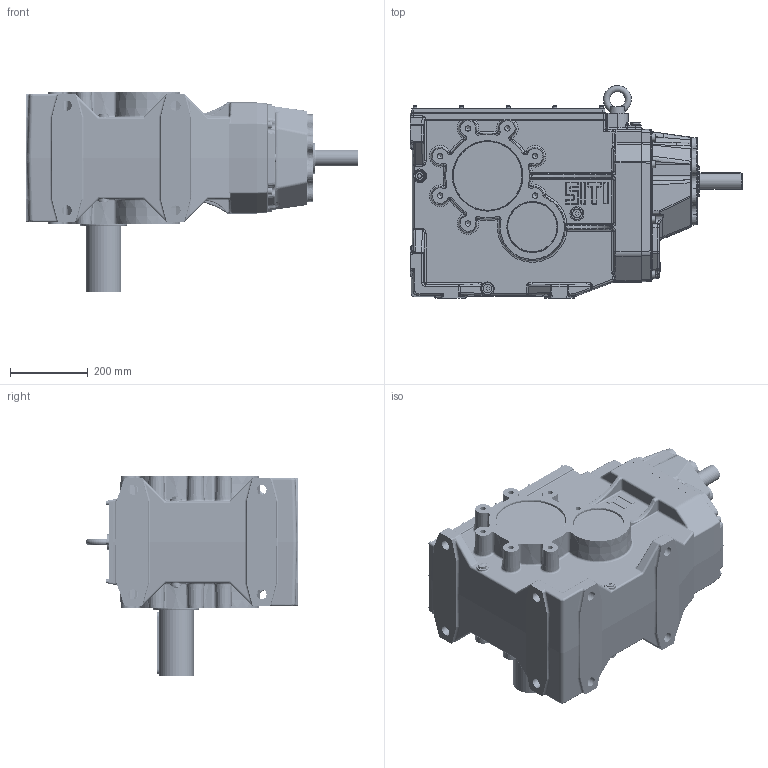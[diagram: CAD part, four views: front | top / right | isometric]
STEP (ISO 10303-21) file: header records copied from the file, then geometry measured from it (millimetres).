
FILE_DESCRIPTION((''),'2;1');
FILE_NAME('O:\Figurini\Figurini BH\3D\160\BH 160 MS-A.stp','2013-05-16T12:47:44',('d.iannaccio'),(''),'Autodesk Inventor 2012','Autodesk Inventor 2012','');
FILE_SCHEMA(('AUTOMOTIVE_DESIGN { 1 0 10303 214 1 1 1 1 }'));
Length unit declared in the file: millimetre
Products named in the file (1): BH_160 MS-A
Bounding box: 855 x 548 x 515 mm (x, y, z)
Volume: 26727560.6 mm3; surface area: 3283578.7 mm2
Topology: 51 solids, 53 shells, 3568 faces, 8593 edges, 5082 vertices
Faces by surface type: cylinder 1013, plane 958, bspline 786, torus 402, cone 336, sphere 73
Full cylindrical faces by diameter (mm): 1.5 x1, 3 x2, 4.917 x12, 6 x24, 6.4 x12, 7 x12, 8.4 x1, 10 x12, 10.106 x10, 10.5 x1, 11 x2, 12 x22, 12.5 x14, 13 x8, 13.835 x14, 14.95 x8, 17.25 x2, 17.294 x3, 18 x8, 20 x2, 20.5 x8, 21 x2, 24 x1, 25 x1, 26 x9, 30 x5, 40 x1, 42 x1, 72 x1, 74.975 x2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
Entity records: 138145 total; most frequent: CARTESIAN_POINT 58350, ORIENTED_EDGE 15570, DIRECTION 15393, EDGE_CURVE 7785, AXIS2_PLACEMENT_3D 6462, VERTEX_POINT 4876, EDGE_LOOP 4234, STYLED_ITEM 3618
